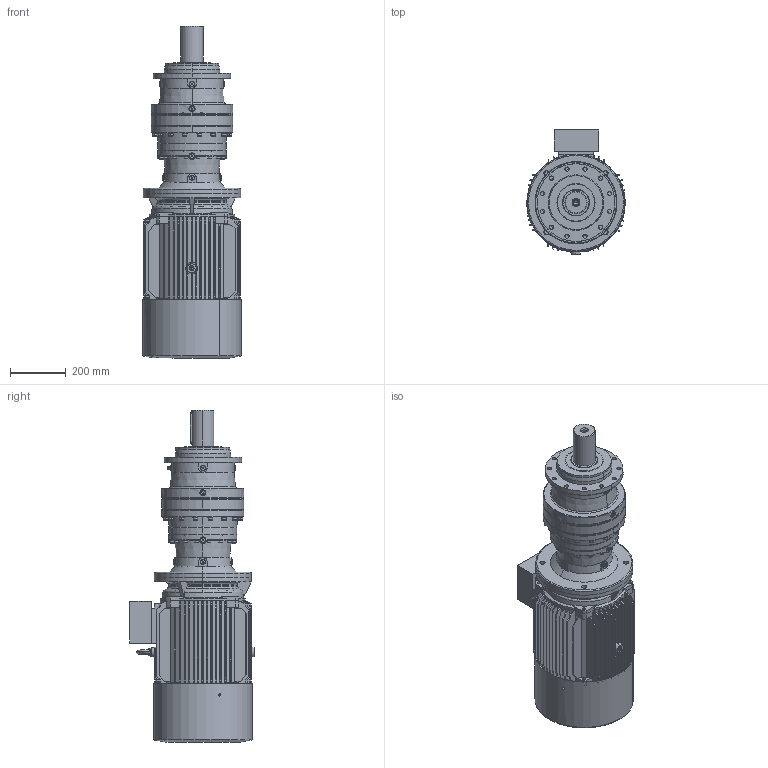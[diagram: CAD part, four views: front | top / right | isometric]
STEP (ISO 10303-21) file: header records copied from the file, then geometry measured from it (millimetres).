
FILE_DESCRIPTION (( 'STEP AP203' ), '1' );
FILE_NAME ('PVL-1902L-HS180M-4.STEP', '2019-05-27T10:26:47', ( '' ), ( '' ), 'SwSTEP 2.0', 'SolidWorks 2012', '' );
FILE_SCHEMA (( 'CONFIG_CONTROL_DESIGN' ));
Products named in the file (15): M3-HS180M-FF-B5; PVL-1902L-HS180M-4; M3-180M-FF-B5; Y2-180-4.6.8+ª-¯ª­-È®+_-++ñ; Y2-180-4.6.8-ª+---®+_-++ñ; Y2-180MB5+À+¿_-++ñ; Eyebolts GB_GB_FASTENER_SCREWS_FRS M12_1; Y2-180+¦i-_-++ñ; PNL_1902L_0_0_A18_B5_ML25A_FL5A_0_0_0_0_0_0_0_0_0_0_0_M1; Y2-180C++A+¦-¯ª¦+¦_-++ñ; FL5A_Varsayìlan; ML25A_Varsayìlan; 15180B5_Varsayìlan; P19_Varsayìlan; EK1902L_Varsayìlan
Assembly tree (14 placements, depth 4):
  PVL-1902L-HS180M-4
    PNL_1902L_0_0_A18_B5_ML25A_FL5A_0_0_0_0_0_0_0_0_0_0_0_M1
      P19_Varsayìlan
      15180B5_Varsayìlan
      ML25A_Varsayìlan
      EK1902L_Varsayìlan
      FL5A_Varsayìlan
    M3-HS180M-FF-B5
      M3-180M-FF-B5
        Y2-180C++A+¦-¯ª¦+¦_-++ñ
        Y2-180+¦i-_-++ñ
        Y2-180-4.6.8-ª+---®+_-++ñ
        Eyebolts GB_GB_FASTENER_SCREWS_FRS M12_1
        Y2-180MB5+À+¿_-++ñ
        Y2-180-4.6.8+ª-¯ª­-È®+_-++ñ
Bounding box: 354.42 x 448.65 x 1196 mm (x, y, z)
Volume: 32358145.3 mm3; surface area: 3820421.2 mm2
Topology: 16 solids, 16 shells, 2627 faces, 7030 edges, 4523 vertices
Faces by surface type: plane 1232, cylinder 820, cone 365, bspline 178, torus 32
Entity records: 93606 total; most frequent: CARTESIAN_POINT 26964, ORIENTED_EDGE 13928, DIRECTION 13549, EDGE_CURVE 6964, AXIS2_PLACEMENT_3D 5190, VERTEX_POINT 4523, VECTOR 3169, LINE 3169
